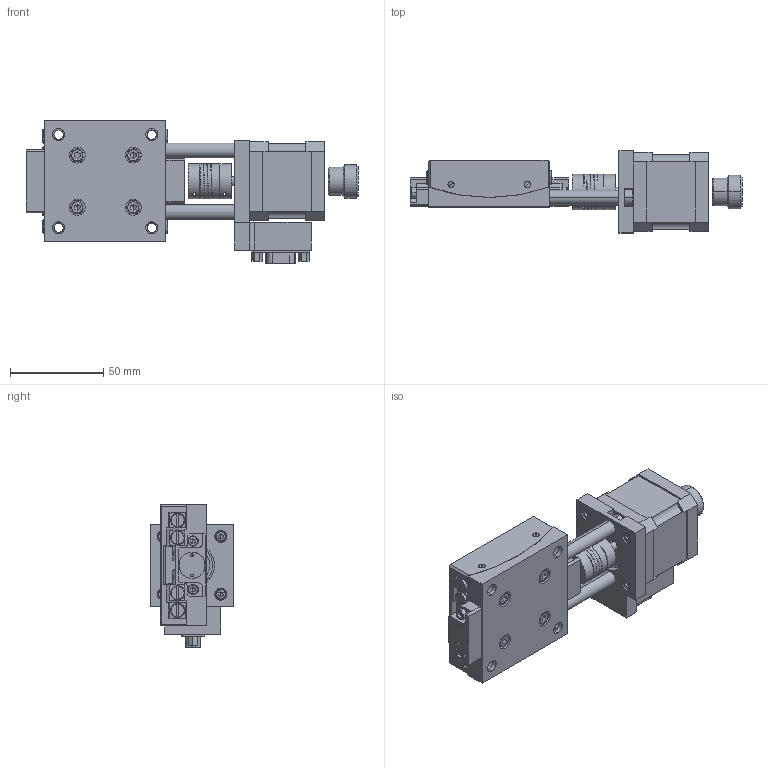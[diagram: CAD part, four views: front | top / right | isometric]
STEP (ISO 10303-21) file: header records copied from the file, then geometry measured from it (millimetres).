
FILE_DESCRIPTION (( 'STEP AP203' ), '1' );
FILE_NAME ('MOG-65-10.STEP', '2013-11-12T01:19:10', ( '' ), ( '' ), 'SwSTEP 2.0', 'SolidWorks 2010', '' );
FILE_SCHEMA (( 'CONFIG_CONTROL_DESIGN' ));
Length unit declared in the file: millimetre
Products named in the file (1): MOG-65-10
Bounding box: 178 x 44 x 76.5 mm (x, y, z)
Surface area: 65430.1 mm2 (no closed solid volume)
Topology: 0 solids, 68 shells, 817 faces, 2417 edges, 1637 vertices
Faces by surface type: plane 437, cylinder 261, cone 71, bspline 48
Entity records: 35314 total; most frequent: CARTESIAN_POINT 14285, ORIENTED_EDGE 4145, DIRECTION 4100, EDGE_CURVE 2390, VERTEX_POINT 1637, AXIS2_PLACEMENT_3D 1390, LINE 1320, VECTOR 1320
